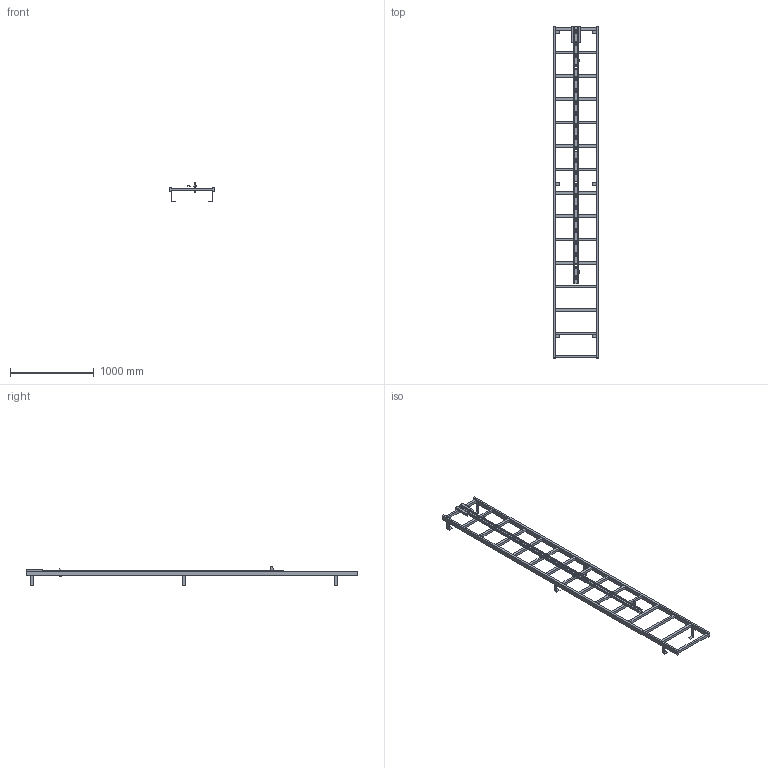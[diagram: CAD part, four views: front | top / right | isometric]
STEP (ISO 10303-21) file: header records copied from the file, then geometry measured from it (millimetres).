
FILE_DESCRIPTION((''),'2;1');
FILE_NAME('52330195','2024-12-05T09:02:49',('wep'),('HUBER SE'),'CREO PARAMETRIC BY PTC INC, 2022162','CREO PARAMETRIC BY PTC INC, 2022162','');
FILE_SCHEMA(('AUTOMOTIVE_DESIGN { 1 0 10303 214 1 1 1 1 }'));
Length unit declared in the file: millimetre
Products named in the file (1): 52330195
Bounding box: 550 x 3970 x 239 mm (x, y, z)
Volume: 18630132 mm3; surface area: 3135220.1 mm2
Topology: 2 solids, 2 shells, 256 faces, 742 edges, 486 vertices
Faces by surface type: plane 256
Entity records: 8937 total; most frequent: CARTESIAN_POINT 1486, ORIENTED_EDGE 1484, DIRECTION 1254, VECTOR 742, LINE 742, EDGE_CURVE 742, VERTEX_POINT 486, EDGE_LOOP 328
